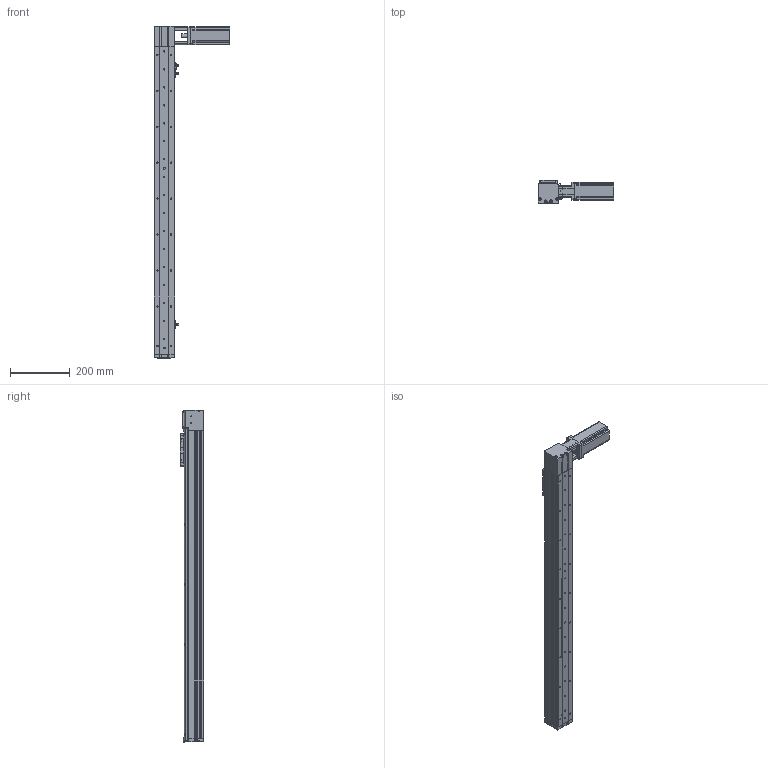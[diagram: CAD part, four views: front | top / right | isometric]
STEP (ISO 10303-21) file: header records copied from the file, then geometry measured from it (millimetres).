
FILE_DESCRIPTION (( 'STEP AP214' ), '1' );
FILE_NAME ('KSD68BS-S850-MRT-CR.STEP', '2019-11-07T06:44:24', ( '微软用户' ), ( '微软中国' ), 'SwSTEP 2.0', 'SolidWorks 2014', '' );
FILE_SCHEMA (( 'AUTOMOTIVE_DESIGN' ));
Length unit declared in the file: millimetre
Products named in the file (13): KSD68BS 850行程盖板全封闭; 68遵裔啣揤啣1; 68宽单导轨全封闭丝杆传动安装板1防护罩; KSD68BS 850行程侧板全封闭; 68宽单导轨全封闭同步带端板; 68单导轨全封闭同步带电机座左; 68单导轨全封闭同步带安装板; 感应片68宽全封闭; U倰嫖萇EEㄜSX672; 台达ECMA－C20604AS伺服电机（400W); KSD68BS 850行程底板全封闭; KSD68BS-S850-MRT-CR; 100遵鎮湛假蚾啣1
Assembly tree (16 placements, depth 2):
  KSD68BS-S850-MRT-CR
    KSD68BS 850行程底板全封闭
    台达ECMA－C20604AS伺服电机（400W)
    U倰嫖萇EEㄜSX672  x3
    感应片68宽全封闭
    68单导轨全封闭同步带安装板
    68单导轨全封闭同步带电机座左
    68宽单导轨全封闭同步带端板
    KSD68BS 850行程侧板全封闭  x2
    68宽单导轨全封闭丝杆传动安装板1防护罩
    68遵裔啣揤啣1  x2
    KSD68BS 850行程盖板全封闭
    100遵鎮湛假蚾啣1
Bounding box: 252.7 x 77 x 1108.1 mm (x, y, z)
Volume: 2283032.9 mm3; surface area: 838319.3 mm2
Topology: 17 solids, 17 shells, 1415 faces, 4024 edges, 2574 vertices
Faces by surface type: cylinder 661, plane 598, cone 156
Entity records: 44854 total; most frequent: CARTESIAN_POINT 7661, DIRECTION 6665, ORIENTED_EDGE 6384, EDGE_CURVE 3192, AXIS2_PLACEMENT_3D 2402, VERTEX_POINT 2092, VECTOR 1861, LINE 1861
